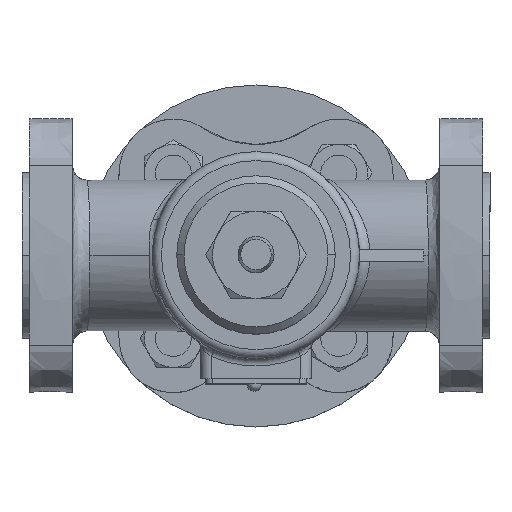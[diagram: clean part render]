
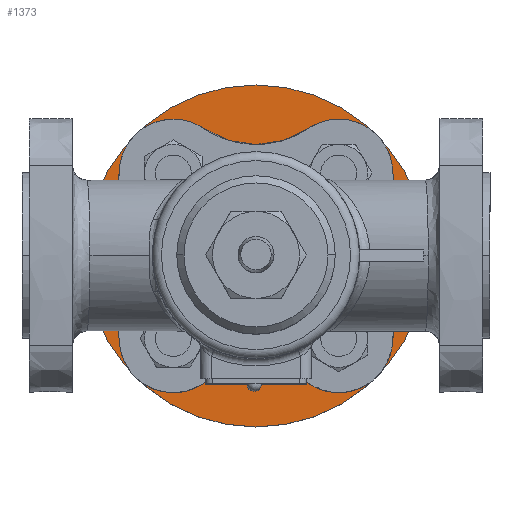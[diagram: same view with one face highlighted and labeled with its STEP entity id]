
A CAD part, top view. The second image highlights one B-rep face of the part: STEP entity #1373.
In plain terms, the highlighted planar face has unit normal (0, 0, 1).
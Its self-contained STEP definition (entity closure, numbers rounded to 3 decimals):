
#1373=ADVANCED_FACE('',(#1686,#1687,#1688,#1689,#1690,#1691),#1507,.T.);
#1507=PLANE('',#5280);
#1686=FACE_BOUND('',#2000,.T.);
#1687=FACE_BOUND('',#2001,.T.);
#1688=FACE_BOUND('',#2002,.T.);
#1689=FACE_BOUND('',#2003,.T.);
#1690=FACE_BOUND('',#2004,.T.);
#1691=FACE_BOUND('',#2005,.T.);
#2000=EDGE_LOOP('',(#3316,#3317));
#2001=EDGE_LOOP('',(#3318,#3319));
#2002=EDGE_LOOP('',(#3320,#3321));
#2003=EDGE_LOOP('',(#3322,#3323));
#2004=EDGE_LOOP('',(#3324,#3325));
#2005=EDGE_LOOP('',(#3326,#3327));
#3316=ORIENTED_EDGE('',*,*,#4562,.T.);
#3317=ORIENTED_EDGE('',*,*,#4563,.T.);
#3318=ORIENTED_EDGE('',*,*,#4564,.T.);
#3319=ORIENTED_EDGE('',*,*,#4565,.T.);
#3320=ORIENTED_EDGE('',*,*,#4561,.F.);
#3321=ORIENTED_EDGE('',*,*,#4560,.F.);
#3322=ORIENTED_EDGE('',*,*,#4566,.F.);
#3323=ORIENTED_EDGE('',*,*,#4567,.F.);
#3324=ORIENTED_EDGE('',*,*,#4568,.T.);
#3325=ORIENTED_EDGE('',*,*,#4569,.T.);
#3326=ORIENTED_EDGE('',*,*,#4570,.T.);
#3327=ORIENTED_EDGE('',*,*,#4571,.T.);
#3876=VERTEX_POINT('',#11273);
#3877=VERTEX_POINT('',#11275);
#3878=VERTEX_POINT('',#11281);
#3879=VERTEX_POINT('',#11282);
#3880=VERTEX_POINT('',#11285);
#3881=VERTEX_POINT('',#11286);
#3882=VERTEX_POINT('',#11289);
#3883=VERTEX_POINT('',#11290);
#3884=VERTEX_POINT('',#11293);
#3885=VERTEX_POINT('',#11294);
#3886=VERTEX_POINT('',#11297);
#3887=VERTEX_POINT('',#11298);
#4560=EDGE_CURVE('',#3877,#3876,#4808,.T.);
#4561=EDGE_CURVE('',#3876,#3877,#4809,.T.);
#4562=EDGE_CURVE('',#3878,#3879,#4810,.T.);
#4563=EDGE_CURVE('',#3879,#3878,#4811,.T.);
#4564=EDGE_CURVE('',#3880,#3881,#4812,.T.);
#4565=EDGE_CURVE('',#3881,#3880,#4813,.T.);
#4566=EDGE_CURVE('',#3882,#3883,#4814,.T.);
#4567=EDGE_CURVE('',#3883,#3882,#4815,.T.);
#4568=EDGE_CURVE('',#3884,#3885,#4816,.T.);
#4569=EDGE_CURVE('',#3885,#3884,#4817,.T.);
#4570=EDGE_CURVE('',#3886,#3887,#4818,.T.);
#4571=EDGE_CURVE('',#3887,#3886,#4819,.T.);
#4808=CIRCLE('',#5266,47.5);
#4809=CIRCLE('',#5268,47.5);
#4810=CIRCLE('',#5270,5.);
#4811=CIRCLE('',#5271,5.);
#4812=CIRCLE('',#5272,5.);
#4813=CIRCLE('',#5273,5.);
#4814=CIRCLE('',#5274,22.5);
#4815=CIRCLE('',#5275,22.5);
#4816=CIRCLE('',#5276,5.);
#4817=CIRCLE('',#5277,5.);
#4818=CIRCLE('',#5278,5.);
#4819=CIRCLE('',#5279,5.);
#5266=AXIS2_PLACEMENT_3D('',#11276,#6409,#6410);
#5268=AXIS2_PLACEMENT_3D('',#11278,#6413,#6414);
#5270=AXIS2_PLACEMENT_3D('',#11280,#6417,#6418);
#5271=AXIS2_PLACEMENT_3D('',#11283,#6419,#6420);
#5272=AXIS2_PLACEMENT_3D('',#11284,#6421,#6422);
#5273=AXIS2_PLACEMENT_3D('',#11287,#6423,#6424);
#5274=AXIS2_PLACEMENT_3D('',#11288,#6425,#6426);
#5275=AXIS2_PLACEMENT_3D('',#11291,#6427,#6428);
#5276=AXIS2_PLACEMENT_3D('',#11292,#6429,#6430);
#5277=AXIS2_PLACEMENT_3D('',#11295,#6431,#6432);
#5278=AXIS2_PLACEMENT_3D('',#11296,#6433,#6434);
#5279=AXIS2_PLACEMENT_3D('',#11299,#6435,#6436);
#5280=AXIS2_PLACEMENT_3D('',#11300,#6437,#6438);
#6409=DIRECTION('',(0.,0.,-1.));
#6410=DIRECTION('',(-1.,0.,0.));
#6413=DIRECTION('',(0.,0.,-1.));
#6414=DIRECTION('',(-1.,0.,0.));
#6417=DIRECTION('',(0.,0.,-1.));
#6418=DIRECTION('',(0.,1.,0.));
#6419=DIRECTION('',(0.,0.,-1.));
#6420=DIRECTION('',(0.,1.,0.));
#6421=DIRECTION('',(0.,0.,-1.));
#6422=DIRECTION('',(0.,-1.,0.));
#6423=DIRECTION('',(0.,0.,-1.));
#6424=DIRECTION('',(0.,-1.,0.));
#6425=DIRECTION('',(0.,0.,1.));
#6426=DIRECTION('',(-1.,0.,0.));
#6427=DIRECTION('',(0.,0.,1.));
#6428=DIRECTION('',(-1.,0.,0.));
#6429=DIRECTION('',(0.,0.,-1.));
#6430=DIRECTION('',(1.,0.,0.));
#6431=DIRECTION('',(0.,0.,-1.));
#6432=DIRECTION('',(1.,0.,0.));
#6433=DIRECTION('',(0.,0.,-1.));
#6434=DIRECTION('',(-1.,0.,0.));
#6435=DIRECTION('',(0.,0.,-1.));
#6436=DIRECTION('',(-1.,0.,0.));
#6437=DIRECTION('',(0.,0.,1.));
#6438=DIRECTION('',(-1.,0.,0.));
#11273=CARTESIAN_POINT('',(82.5,0.,-67.993));
#11275=CARTESIAN_POINT('',(177.5,0.,-67.993));
#11276=CARTESIAN_POINT('',(130.,0.,-67.993));
#11278=CARTESIAN_POINT('',(130.,0.,-67.993));
#11280=CARTESIAN_POINT('',(152.981,-22.981,-67.993));
#11281=CARTESIAN_POINT('',(152.981,-17.981,-67.993));
#11282=CARTESIAN_POINT('',(152.981,-27.981,-67.993));
#11283=CARTESIAN_POINT('',(152.981,-22.981,-67.993));
#11284=CARTESIAN_POINT('',(107.019,22.981,-67.993));
#11285=CARTESIAN_POINT('',(107.019,17.981,-67.993));
#11286=CARTESIAN_POINT('',(107.019,27.981,-67.993));
#11287=CARTESIAN_POINT('',(107.019,22.981,-67.993));
#11288=CARTESIAN_POINT('',(130.,0.,-67.993));
#11289=CARTESIAN_POINT('',(107.5,0.,-67.993));
#11290=CARTESIAN_POINT('',(152.5,0.,-67.993));
#11291=CARTESIAN_POINT('',(130.,0.,-67.993));
#11292=CARTESIAN_POINT('',(107.019,-22.981,-67.993));
#11293=CARTESIAN_POINT('',(112.019,-22.981,-67.993));
#11294=CARTESIAN_POINT('',(102.019,-22.981,-67.993));
#11295=CARTESIAN_POINT('',(107.019,-22.981,-67.993));
#11296=CARTESIAN_POINT('',(152.981,22.981,-67.993));
#11297=CARTESIAN_POINT('',(147.981,22.981,-67.993));
#11298=CARTESIAN_POINT('',(157.981,22.981,-67.993));
#11299=CARTESIAN_POINT('',(152.981,22.981,-67.993));
#11300=CARTESIAN_POINT('',(177.5,47.5,-67.993));
